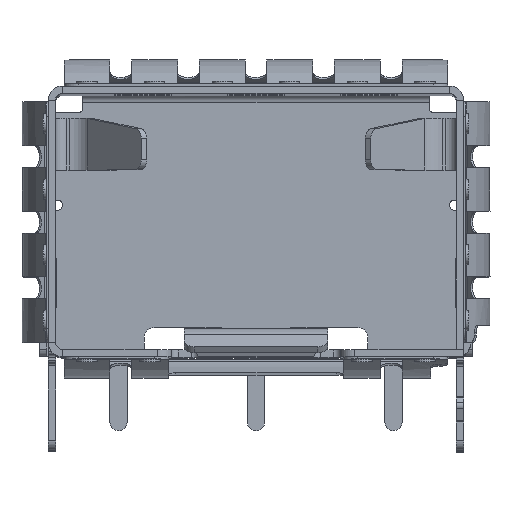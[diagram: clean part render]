
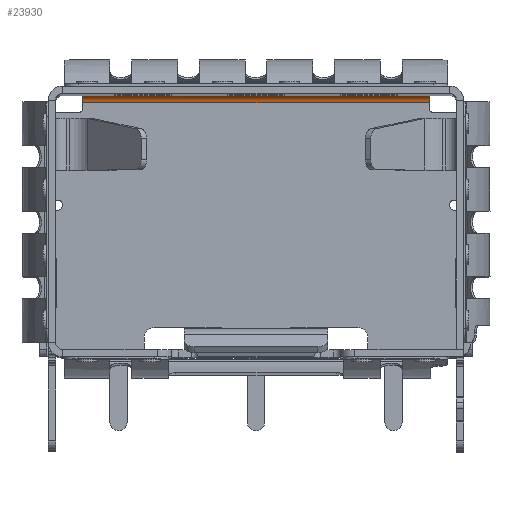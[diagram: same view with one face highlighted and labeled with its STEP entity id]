
A CAD part, top view. The second image highlights one B-rep face of the part: STEP entity #23930.
In plain terms, the highlighted cylindrical face has radius 0.25 mm (diameter 0.5 mm), a partial arc.
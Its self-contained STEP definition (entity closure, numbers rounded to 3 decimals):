
#5462=CARTESIAN_POINT('',(1.45,9.366,-48.352));
#5463=CARTESIAN_POINT('',(1.45,9.369,-48.345));
#5464=CARTESIAN_POINT('',(1.448,9.376,-48.333));
#5465=CARTESIAN_POINT('',(1.441,9.384,-48.313));
#5466=CARTESIAN_POINT('',(1.429,9.391,-48.293));
#5467=CARTESIAN_POINT('',(1.411,9.396,-48.273));
#5468=CARTESIAN_POINT('',(1.386,9.399,-48.254));
#5469=CARTESIAN_POINT('',(1.355,9.4,-48.238));
#5470=CARTESIAN_POINT('',(1.317,9.4,-48.228));
#5471=CARTESIAN_POINT('',(1.289,9.4,-48.225));
#5472=CARTESIAN_POINT('',(1.275,9.4,-48.225));
#5474=DIRECTION('',(1.,0.,0.));
#5475=VECTOR('',#5474,12.45);
#5476=CARTESIAN_POINT('',(1.275,9.4,-48.225));
#5477=LINE('',#5476,#5475);
#5478=CARTESIAN_POINT('',(13.725,9.4,-48.225));
#5479=CARTESIAN_POINT('',(13.711,9.4,-48.225));
#5480=CARTESIAN_POINT('',(13.683,9.4,-48.228));
#5481=CARTESIAN_POINT('',(13.646,9.4,-48.238));
#5482=CARTESIAN_POINT('',(13.615,9.399,-48.253));
#5483=CARTESIAN_POINT('',(13.59,9.396,-48.272));
#5484=CARTESIAN_POINT('',(13.571,9.391,-48.292));
#5485=CARTESIAN_POINT('',(13.559,9.385,-48.312));
#5486=CARTESIAN_POINT('',(13.552,9.376,-48.332));
#5487=CARTESIAN_POINT('',(13.55,9.369,-48.345));
#5488=CARTESIAN_POINT('',(13.55,9.366,-48.352));
#5494=CARTESIAN_POINT('',(1.45,9.15,-48.225));
#5495=DIRECTION('',(-1.,0.,0.));
#5496=DIRECTION('',(0.,0.862,-0.506));
#5497=AXIS2_PLACEMENT_3D('',#5494,#5495,#5496);
#5611=DIRECTION('',(1.,0.,0.));
#5612=VECTOR('',#5611,12.1);
#5613=CARTESIAN_POINT('',(1.45,9.15,-48.475));
#5614=LINE('',#5613,#5612);
#6155=CARTESIAN_POINT('',(13.55,9.15,-48.225));
#6156=DIRECTION('',(1.,0.,0.));
#6157=DIRECTION('',(0.,0.,-1.));
#6158=AXIS2_PLACEMENT_3D('',#6155,#6156,#6157);
#13117=CARTESIAN_POINT('',(1.275,9.4,-48.225));
#13119=VERTEX_POINT('',#13117);
#14555=VERTEX_POINT('',#5462);
#14556=CARTESIAN_POINT('',(13.725,9.4,-48.225));
#14557=VERTEX_POINT('',#14556);
#14558=VERTEX_POINT('',#5488);
#14559=CARTESIAN_POINT('',(1.45,9.15,-48.475));
#14560=CARTESIAN_POINT('',(13.55,9.15,-48.475));
#14561=VERTEX_POINT('',#14559);
#14562=VERTEX_POINT('',#14560);
#23913=CARTESIAN_POINT('',(1.026,9.15,-48.225));
#23914=DIRECTION('',(1.,0.,0.));
#23915=DIRECTION('',(0.,1.,0.));
#23916=AXIS2_PLACEMENT_3D('',#23913,#23914,#23915);
#23917=CYLINDRICAL_SURFACE('',#23916,0.25);
#23919=ORIENTED_EDGE('',*,*,#23918,.F.);
#23920=ORIENTED_EDGE('',*,*,#23904,.T.);
#23921=ORIENTED_EDGE('',*,*,#16766,.T.);
#23923=ORIENTED_EDGE('',*,*,#23922,.T.);
#23925=ORIENTED_EDGE('',*,*,#23924,.F.);
#23927=ORIENTED_EDGE('',*,*,#23926,.F.);
#23928=EDGE_LOOP('',(#23919,#23920,#23921,#23923,#23925,#23927));
#23929=FACE_OUTER_BOUND('',#23928,.F.);
#23930=ADVANCED_FACE('',(#23929),#23917,.F.);
#5473=B_SPLINE_CURVE_WITH_KNOTS('',3,(#5462,#5463,#5464,#5465,#5466,#5467,#5468,
#5469,#5470,#5471,#5472),.UNSPECIFIED.,.F.,.F.,(4,1,1,1,1,1,1,1,4),(0.,
0.125,0.25,0.375,0.5,0.625,0.75,0.875,1.),.UNSPECIFIED.);
#5489=B_SPLINE_CURVE_WITH_KNOTS('',3,(#5478,#5479,#5480,#5481,#5482,#5483,#5484,
#5485,#5486,#5487,#5488),.UNSPECIFIED.,.F.,.F.,(4,1,1,1,1,1,1,1,4),(0.,
0.125,0.25,0.375,0.5,0.625,0.75,0.875,1.),.UNSPECIFIED.);
#5498=CIRCLE('',#5497,0.25);
#6159=CIRCLE('',#6158,0.25);
#16766=EDGE_CURVE('',#13119,#14557,#5477,.T.);
#23904=EDGE_CURVE('',#14555,#13119,#5473,.T.);
#23918=EDGE_CURVE('',#14555,#14561,#5498,.T.);
#23922=EDGE_CURVE('',#14557,#14558,#5489,.T.);
#23924=EDGE_CURVE('',#14562,#14558,#6159,.T.);
#23926=EDGE_CURVE('',#14561,#14562,#5614,.T.);
